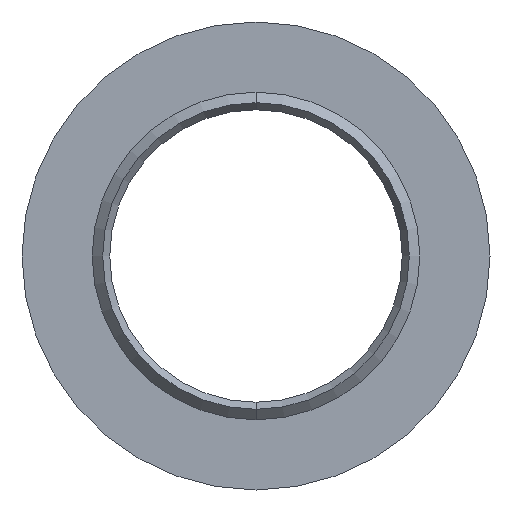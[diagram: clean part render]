
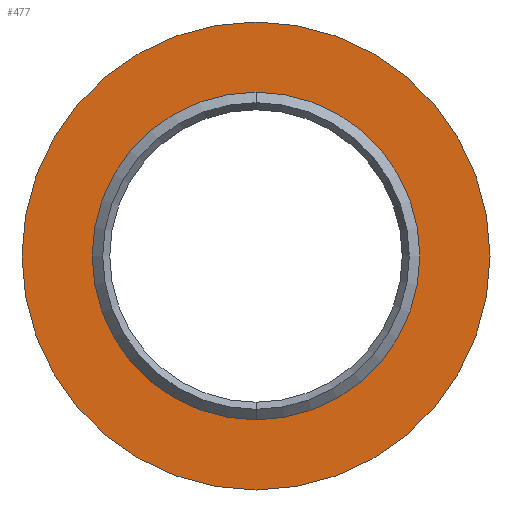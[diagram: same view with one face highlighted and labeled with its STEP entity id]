
A CAD part, front view. The second image highlights one B-rep face of the part: STEP entity #477.
In plain terms, the highlighted planar face has unit normal (0, -1, 0).
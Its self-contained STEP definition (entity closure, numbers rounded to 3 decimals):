
#9 = CIRCLE ( 'NONE', #104, 8. ) ;
#17 = EDGE_CURVE ( 'NONE', #153, #75, #291, .T. ) ;
#40 = CARTESIAN_POINT ( 'NONE',  ( 0., -3., 8. ) ) ;
#58 = CIRCLE ( 'NONE', #265, 8. ) ;
#62 = DIRECTION ( 'NONE',  ( 0., 0., -1. ) ) ;
#63 = ORIENTED_EDGE ( 'NONE', *, *, #17, .T. ) ;
#75 = VERTEX_POINT ( 'NONE', #334 ) ;
#88 = EDGE_LOOP ( 'NONE', ( #63, #357 ) ) ;
#89 = FACE_BOUND ( 'NONE', #88, .T. ) ;
#91 = DIRECTION ( 'NONE',  ( 0., 1., 0. ) ) ;
#98 = CARTESIAN_POINT ( 'NONE',  ( 0., -3., 0. ) ) ;
#100 = CARTESIAN_POINT ( 'NONE',  ( 0., -3., 5.6 ) ) ;
#104 = AXIS2_PLACEMENT_3D ( 'NONE', #406, #140, #367 ) ;
#116 = FACE_OUTER_BOUND ( 'NONE', #434, .T. ) ;
#128 = DIRECTION ( 'NONE',  ( 0., 0., 1. ) ) ;
#140 = DIRECTION ( 'NONE',  ( 0., -1., 0. ) ) ;
#147 = CIRCLE ( 'NONE', #282, 5.6 ) ;
#153 = VERTEX_POINT ( 'NONE', #100 ) ;
#166 = CARTESIAN_POINT ( 'NONE',  ( -5.1, -3., 0. ) ) ;
#167 = VERTEX_POINT ( 'NONE', #254 ) ;
#182 = EDGE_CURVE ( 'NONE', #167, #324, #58, .T. ) ;
#187 = ORIENTED_EDGE ( 'NONE', *, *, #182, .T. ) ;
#254 = CARTESIAN_POINT ( 'NONE',  ( 0., -3., -8. ) ) ;
#265 = AXIS2_PLACEMENT_3D ( 'NONE', #98, #327, #62 ) ;
#275 = ORIENTED_EDGE ( 'NONE', *, *, #325, .T. ) ;
#282 = AXIS2_PLACEMENT_3D ( 'NONE', #361, #91, #323 ) ;
#291 = CIRCLE ( 'NONE', #400, 5.6 ) ;
#303 = DIRECTION ( 'NONE',  ( 0., 1., 0. ) ) ;
#323 = DIRECTION ( 'NONE',  ( 0., 0., 1. ) ) ;
#324 = VERTEX_POINT ( 'NONE', #40 ) ;
#325 = EDGE_CURVE ( 'NONE', #324, #167, #9, .T. ) ;
#327 = DIRECTION ( 'NONE',  ( 0., -1., 0. ) ) ;
#334 = CARTESIAN_POINT ( 'NONE',  ( 0., -3., -5.6 ) ) ;
#357 = ORIENTED_EDGE ( 'NONE', *, *, #379, .T. ) ;
#361 = CARTESIAN_POINT ( 'NONE',  ( 0., -3., 0. ) ) ;
#367 = DIRECTION ( 'NONE',  ( 0., 0., -1. ) ) ;
#379 = EDGE_CURVE ( 'NONE', #75, #153, #147, .T. ) ;
#394 = DIRECTION ( 'NONE',  ( 0., 1., 0. ) ) ;
#400 = AXIS2_PLACEMENT_3D ( 'NONE', #444, #303, #412 ) ;
#406 = CARTESIAN_POINT ( 'NONE',  ( 0., -3., 0. ) ) ;
#412 = DIRECTION ( 'NONE',  ( 0., 0., 1. ) ) ;
#431 = PLANE ( 'NONE',  #459 ) ;
#434 = EDGE_LOOP ( 'NONE', ( #187, #275 ) ) ;
#444 = CARTESIAN_POINT ( 'NONE',  ( 0., -3., 0. ) ) ;
#459 = AXIS2_PLACEMENT_3D ( 'NONE', #166, #394, #128 ) ;
#477 = ADVANCED_FACE ( 'NONE', ( #89, #116 ), #431, .F. ) ;
